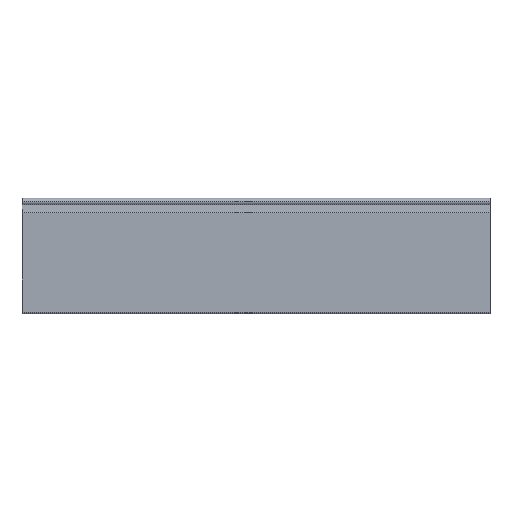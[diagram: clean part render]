
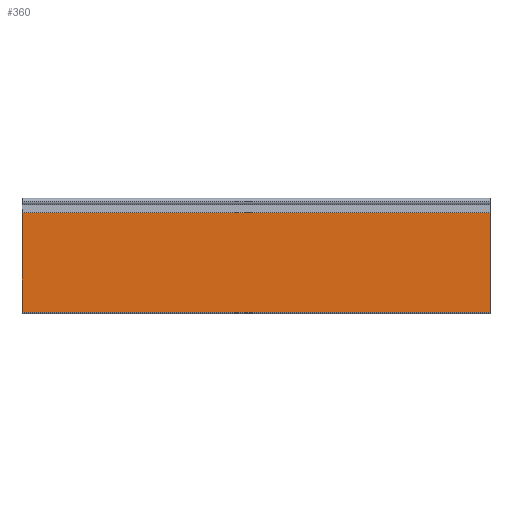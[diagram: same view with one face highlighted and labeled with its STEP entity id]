
A CAD part, top view. The second image highlights one B-rep face of the part: STEP entity #360.
In plain terms, the highlighted planar face has unit normal (0, 0, 1).
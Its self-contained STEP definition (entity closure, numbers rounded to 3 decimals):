
#13 = CARTESIAN_POINT ( 'NONE',  ( -258., -12.164, 4.05 ) ) ;
#22 = DIRECTION ( 'NONE',  ( 0., -1., 0. ) ) ;
#90 = CARTESIAN_POINT ( 'NONE',  ( 258., -12.164, 4.05 ) ) ;
#91 = PLANE ( 'NONE',  #273 ) ;
#93 = DIRECTION ( 'NONE',  ( 0., 0., -1. ) ) ;
#94 = DIRECTION ( 'NONE',  ( 0., 1., 0. ) ) ;
#161 = EDGE_CURVE ( 'NONE', #1044, #839, #592, .T. ) ;
#219 = EDGE_CURVE ( 'NONE', #1023, #1038, #758, .T. ) ;
#273 = AXIS2_PLACEMENT_3D ( 'NONE', #90, #93, #94 ) ;
#302 = ORIENTED_EDGE ( 'NONE', *, *, #726, .T. ) ;
#360 = ADVANCED_FACE ( 'NONE', ( #791 ), #91, .F. ) ;
#401 = LINE ( 'NONE', #1149, #402 ) ;
#402 = VECTOR ( 'NONE', #1150, 1000. ) ;
#403 = LINE ( 'NONE', #1151, #404 ) ;
#404 = VECTOR ( 'NONE', #1152, 1000. ) ;
#520 = ORIENTED_EDGE ( 'NONE', *, *, #219, .T. ) ;
#521 = ORIENTED_EDGE ( 'NONE', *, *, #727, .F. ) ;
#522 = ORIENTED_EDGE ( 'NONE', *, *, #161, .F. ) ;
#550 = EDGE_LOOP ( 'NONE', ( #520, #521, #522, #302 ) ) ;
#592 = LINE ( 'NONE', #857, #594 ) ;
#594 = VECTOR ( 'NONE', #865, 1000. ) ;
#668 = CARTESIAN_POINT ( 'NONE',  ( -258., -12.164, 4.05 ) ) ;
#683 = CARTESIAN_POINT ( 'NONE',  ( -258., -121.663, 4.05 ) ) ;
#689 = CARTESIAN_POINT ( 'NONE',  ( 258., -12.164, 4.05 ) ) ;
#726 = EDGE_CURVE ( 'NONE', #1044, #1023, #401, .T. ) ;
#727 = EDGE_CURVE ( 'NONE', #839, #1038, #403, .T. ) ;
#755 = VECTOR ( 'NONE', #22, 1000. ) ;
#758 = LINE ( 'NONE', #13, #755 ) ;
#791 = FACE_OUTER_BOUND ( 'NONE', #550, .T. ) ;
#839 = VERTEX_POINT ( 'NONE', #1205 ) ;
#857 = CARTESIAN_POINT ( 'NONE',  ( 258., -12.164, 4.05 ) ) ;
#865 = DIRECTION ( 'NONE',  ( 0., -1., 0. ) ) ;
#1023 = VERTEX_POINT ( 'NONE', #668 ) ;
#1038 = VERTEX_POINT ( 'NONE', #683 ) ;
#1044 = VERTEX_POINT ( 'NONE', #689 ) ;
#1149 = CARTESIAN_POINT ( 'NONE',  ( 258., -12.164, 4.05 ) ) ;
#1150 = DIRECTION ( 'NONE',  ( -1., 0., 0. ) ) ;
#1151 = CARTESIAN_POINT ( 'NONE',  ( 258., -121.663, 4.05 ) ) ;
#1152 = DIRECTION ( 'NONE',  ( -1., 0., 0. ) ) ;
#1205 = CARTESIAN_POINT ( 'NONE',  ( 258., -121.663, 4.05 ) ) ;
